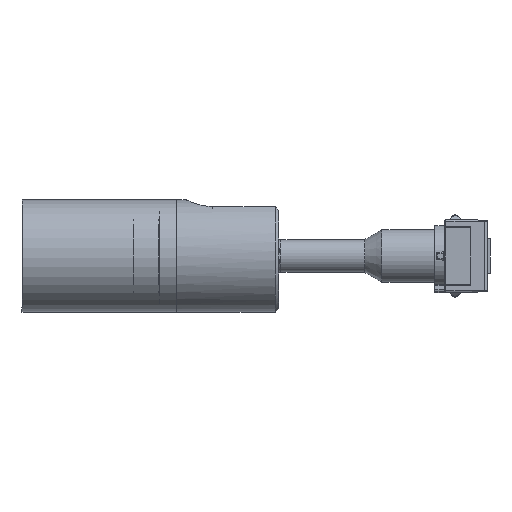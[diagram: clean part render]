
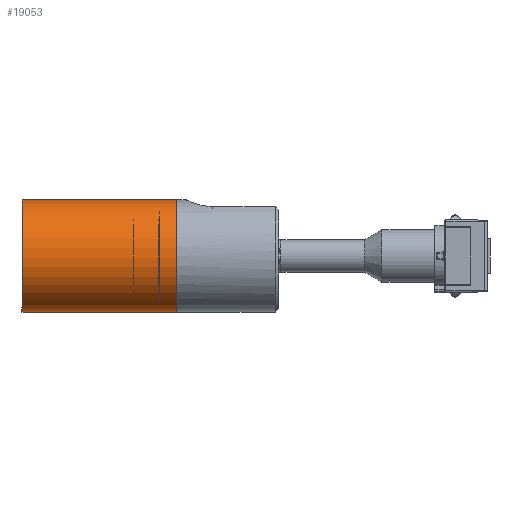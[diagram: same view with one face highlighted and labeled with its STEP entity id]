
A CAD part, left-side view. The second image highlights one B-rep face of the part: STEP entity #19053.
In plain terms, the highlighted cylindrical face has radius 8.5 mm (diameter 17 mm), a full revolution.
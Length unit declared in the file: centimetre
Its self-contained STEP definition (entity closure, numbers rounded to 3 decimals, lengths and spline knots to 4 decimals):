
#1366=CYLINDRICAL_SURFACE('',#20426,0.85);
#2208=FACE_OUTER_BOUND('',#3231,.T.);
#3231=EDGE_LOOP('',(#16399,#16400,#16401,#16402));
#3623=CIRCLE('',#20420,0.85);
#3626=CIRCLE('',#20425,0.85);
#5535=LINE('',#31969,#7435);
#7435=VECTOR('',#24915,0.85);
#9019=VERTEX_POINT('',#31957);
#9022=VERTEX_POINT('',#31966);
#11529=EDGE_CURVE('',#9019,#9019,#3623,.T.);
#11533=EDGE_CURVE('',#9022,#9022,#3626,.T.);
#11534=EDGE_CURVE('',#9019,#9022,#5535,.T.);
#16399=ORIENTED_EDGE('',*,*,#11529,.F.);
#16400=ORIENTED_EDGE('',*,*,#11534,.T.);
#16401=ORIENTED_EDGE('',*,*,#11533,.T.);
#16402=ORIENTED_EDGE('',*,*,#11534,.F.);
#19053=ADVANCED_FACE('',(#2208),#1366,.T.);
#20420=AXIS2_PLACEMENT_3D('',#31958,#24900,#24901);
#20425=AXIS2_PLACEMENT_3D('',#31967,#24911,#24912);
#20426=AXIS2_PLACEMENT_3D('',#31968,#24913,#24914);
#24900=DIRECTION('center_axis',(0.,-1.,0.));
#24901=DIRECTION('ref_axis',(-0.526,0.,0.85));
#24911=DIRECTION('center_axis',(0.,-1.,0.));
#24912=DIRECTION('ref_axis',(-0.526,0.,0.85));
#24913=DIRECTION('center_axis',(0.,-1.,0.));
#24914=DIRECTION('ref_axis',(0.526,0.,-0.85));
#24915=DIRECTION('',(0.,1.,0.));
#31957=CARTESIAN_POINT('',(-0.4471,4.4093,0.7229));
#31958=CARTESIAN_POINT('Origin',(0.,4.4093,
0.));
#31966=CARTESIAN_POINT('',(-0.4471,6.7493,0.7229));
#31967=CARTESIAN_POINT('Origin',(0.,6.7493,
0.));
#31968=CARTESIAN_POINT('Origin',(0.,5.7543,
0.));
#31969=CARTESIAN_POINT('',(-0.4471,5.7543,0.7229));
